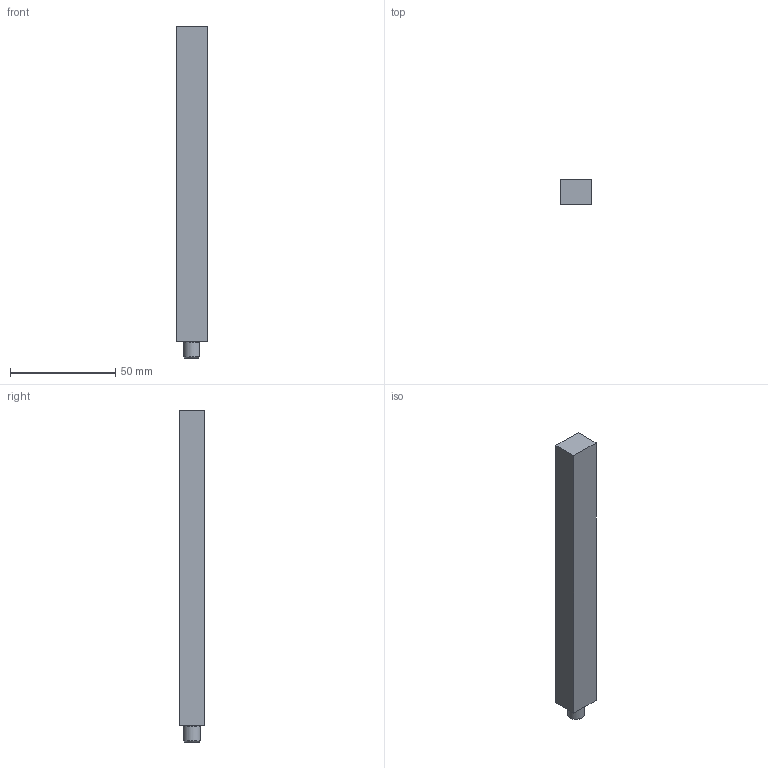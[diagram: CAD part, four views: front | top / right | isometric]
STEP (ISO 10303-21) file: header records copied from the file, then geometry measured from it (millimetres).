
FILE_DESCRIPTION (( 'STEP AP214' ), '1' );
FILE_NAME ('KKPHF Pin S_-_8-150.step', '2024-02-07T08:54:05', ( '' ), ( '' ), 'SwSTEP 2.0', 'SolidWorks 2020', '' );
FILE_SCHEMA (( 'AUTOMOTIVE_DESIGN' ));
Length unit declared in the file: millimetre
Products named in the file (1): KKPHF  Pin S_-_8-150
Bounding box: 15 x 12 x 157.9 mm (x, y, z)
Volume: 27295.4 mm3; surface area: 8751.5 mm2
Topology: 1 solids, 1 shells, 15 faces, 31 edges, 19 vertices
Faces by surface type: plane 9, cylinder 3, cone 2, torus 1
Full cylindrical faces by diameter (mm): 3.3 x1
Entity records: 425 total; most frequent: CARTESIAN_POINT 78, DIRECTION 62, ORIENTED_EDGE 56, EDGE_CURVE 28, AXIS2_PLACEMENT_3D 22, VECTOR 18, LINE 18, EDGE_LOOP 18
